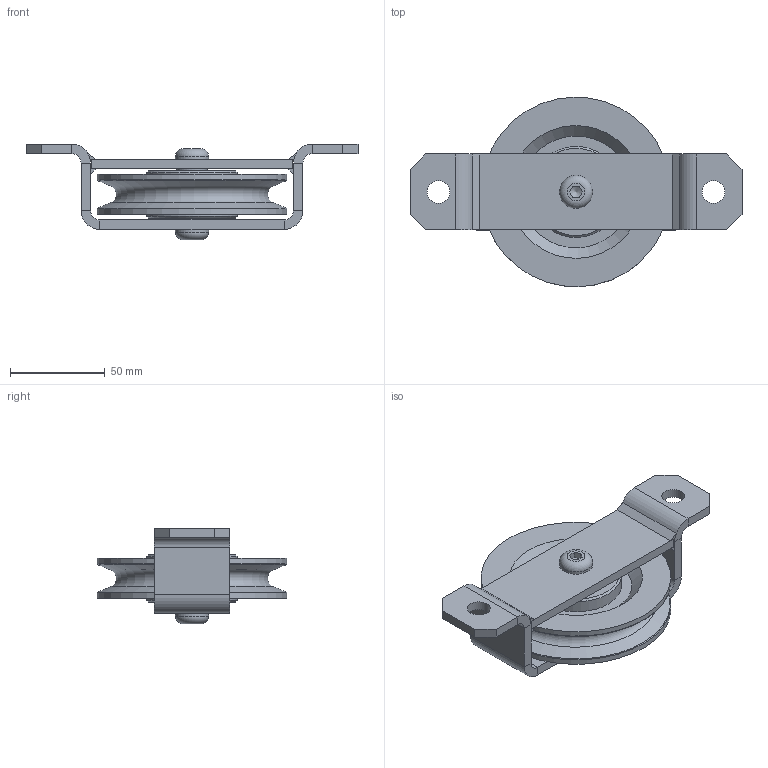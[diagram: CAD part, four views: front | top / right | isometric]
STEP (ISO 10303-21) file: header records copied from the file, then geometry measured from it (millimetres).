
FILE_DESCRIPTION(/* description */ ('Seilrolle ø100 Seitenbefestigung Gleitlager'),/* implementation_level */ '2;1');
FILE_NAME(/* name */ 'Z:\Workspace\03 Seilrollen\1.407 Seilrollen Seitenbefestigung Gleitlager\1.407.03 Seilrolle ø100 Seitenbefestigung Gleitlager\1.407.03 Seilrolle ø100 Seitenbefestigung Gleitlager.stp',/* time_stamp */ '2021-10-08T14:49:45+02:00',/* author */ ('cad-user'),/* organization */ (''),/* preprocessor_version */ 'ST-DEVELOPER v18',/* originating_system */ 'Autodesk Inventor 2020',/* authorisation */ '');
FILE_SCHEMA (('AUTOMOTIVE_DESIGN { 1 0 10303 214 3 1 1 }'));
Length unit declared in the file: millimetre
Products named in the file (10): 1.407.03 Seilrolle ø100 Seitenbefestigung Gleitlage
r; 1.407.03.00 Seitenbefestigung SR ø100; 1.407.03.00 Seitenbefestigung SR ø100_1; 1.407.03.01 Blech 1; 1.407.03.02 Blech 2; 1.401.03 Seilrolle ø100 Buchse komplett; 1.401.03 Seilrolle ø100 Buchse ; Lagerbuchse 1625-DU; 1.405.03.02 Achse; ISO 7380 - M10 x 16
Assembly tree (10 placements, depth 3):
  1.407.03 Seilrolle ø100 Seitenbefestigung Gleitlage
r
    1.407.03.00 Seitenbefestigung SR ø100
      1.407.03.00 Seitenbefestigung SR ø100_1
      1.407.03.01 Blech 1
      1.407.03.02 Blech 2
    1.401.03 Seilrolle ø100 Buchse komplett
      1.401.03 Seilrolle ø100 Buchse 
      Lagerbuchse 1625-DU
    1.405.03.02 Achse
    ISO 7380 - M10 x 16  x2
Bounding box: 175 x 99.95 x 50.5 mm (x, y, z)
Volume: 197511.2 mm3; surface area: 69873.8 mm2
Topology: 11 solids, 11 shells, 135 faces, 314 edges, 205 vertices
Faces by surface type: plane 86, cylinder 28, cone 14, torus 7
Full cylindrical faces by diameter (mm): 8.376 x1, 10 x2, 11 x2, 12 x2, 16 x1, 17.5 x2, 18 x1, 48 x2, 100 x2
Entity records: 3751 total; most frequent: DIRECTION 646, CARTESIAN_POINT 610, ORIENTED_EDGE 544, EDGE_CURVE 272, AXIS2_PLACEMENT_3D 245, VERTEX_POINT 176, LINE 156, VECTOR 156
